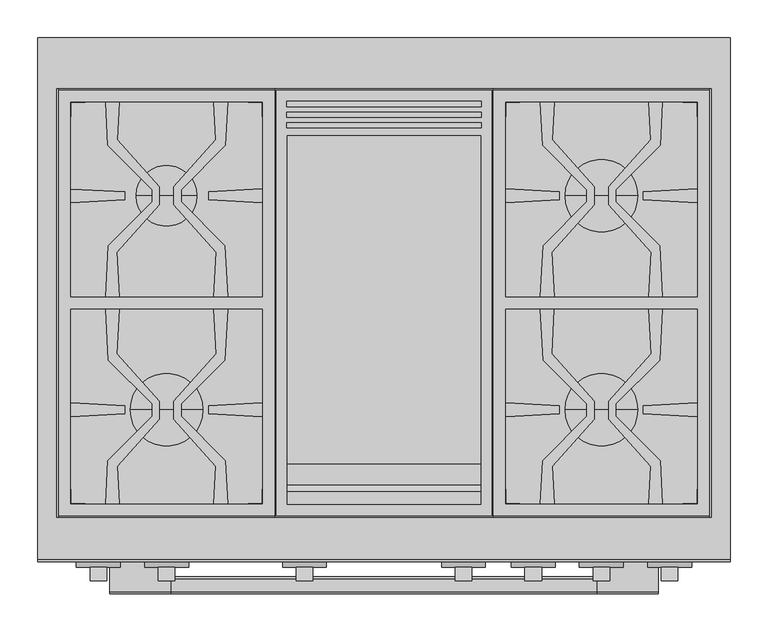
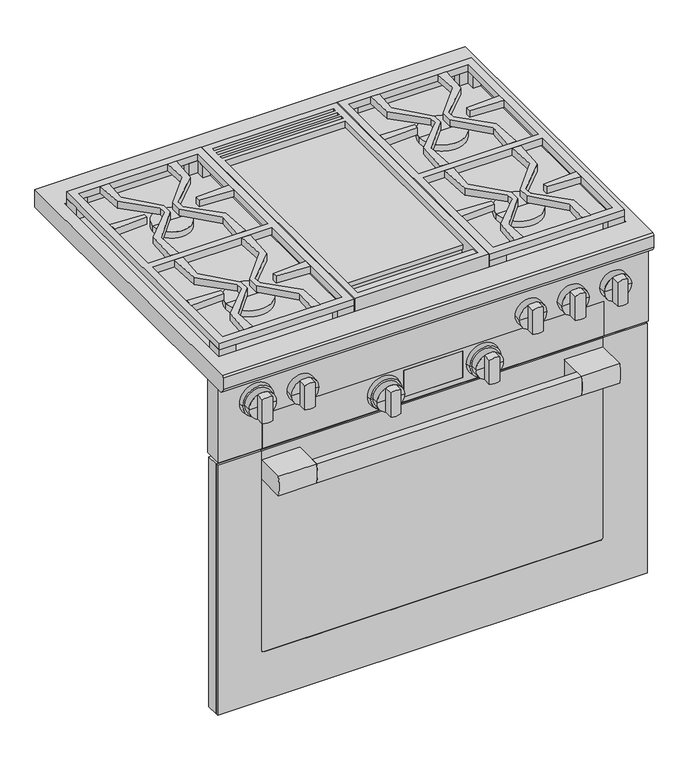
"""IFC4 building model written with IfcOpenShell, lengths in millimetres: proxy geometry, 11791500_USA_HR1136-3G_EDST-CLST : 25113681_USA_11791500_HR1136-3G_EDST-CLST."""

from ifc_helpers import new_model, si_unit, point, frame, frame_2d, origin, place, context, project, spatial, polyline, circle_curve, trimmed, segment, composite_curve, outline, extrude, faceted_brep, source, transform, mapped, element, save
from ifc_brep_helpers import plane_surface, cylinder_surface, revolved_surface, advanced_brep


def specialty_equipment_065de27d(model_context):
    return source(origin(), model_context, "Body", "SolidModel", [
        extrude(outline(composite_curve([segment(polyline([(-714.0, 624.0), (-731.0, 624.0)]), True, "CONTINUOUS"), segment(trimmed(circle_curve(frame_2d((-655.4583333, 645.5)), 78.5416667), [point((-731.0, 624.0))], [point((-731.0, 667.0))], False, "CARTESIAN"), True, "CONTINUOUS"), segment(polyline([(-731.0, 667.0), (-714.0, 667.0)]), True, "CONTINUOUS"), segment(trimmed(circle_curve(frame_2d((-789.5416667, 645.5)), 78.5416667), [point((-714.0, 667.0))], [point((-714.0, 624.0))], False, "CARTESIAN"), True, "CONTINUOUS")], self_intersect=False)), frame((-281.0, 0.0, 0.0), z_axis=(1.0, 0.0, 0.0), x_axis=(0.0, 1.0, 0.0)), (0.0, 0.0, 1.0), 562.0),
        extrude(outline(composite_curve([segment(polyline([(-731.0, 667.0), (-668.7, 667.0), (-668.7, 624.0), (-731.0, 624.0)]), True, "CONTINUOUS"), segment(trimmed(circle_curve(frame_2d((-655.4583333, 645.5)), 78.5416667), [point((-731.0, 624.0))], [point((-731.0, 667.0))], False, "CARTESIAN"), True, "CONTINUOUS")], self_intersect=False)), frame((281.0, 0.0, 0.0), z_axis=(1.0, 0.0, 0.0), x_axis=(0.0, 1.0, 0.0)), (0.0, 0.0, 1.0), 81.0),
        extrude(outline(composite_curve([segment(polyline([(-668.7, 667.0), (-668.7, 624.0), (-731.0, 624.0)]), True, "CONTINUOUS"), segment(trimmed(circle_curve(frame_2d((-655.4583333, 645.5)), 78.5416667), [point((-731.0, 624.0))], [point((-731.0, 667.0))], False, "CARTESIAN"), True, "CONTINUOUS"), segment(polyline([(-731.0, 667.0), (-668.7, 667.0)]), True, "CONTINUOUS")], self_intersect=False)), frame((-362.0, 0.0, 0.0), z_axis=(1.0, 0.0, 0.0), x_axis=(0.0, 1.0, 0.0)), (0.0, 0.0, 1.0), 81.0),
        extrude(outline(polyline([(-456.0, -638.0), (456.0, -638.0), (456.0, -664.7), (-456.0, -664.7), (-456.0, -638.0)])), frame((0.0, 0.0, 127.0), z_axis=(0.0, 0.0, 1.0), x_axis=(1.0, 0.0, 0.0)), (0.0, 0.0, 1.0), 561.0),
        extrude(outline(polyline([(-455.0, -664.7), (455.0, -664.7), (455.0, -668.7), (-455.0, -668.7), (-455.0, -664.7)])), frame((0.0, 0.0, 128.0), z_axis=(0.0, 0.0, 1.0), x_axis=(1.0, 0.0, 0.0)), (0.0, 0.0, 1.0), 559.0),
        advanced_brep(
        [(363.0, -664.7, 688.0), (456.0, -664.7, 688.0), (456.0, -664.7, 127.0), (-456.0, -664.7, 127.0), (-456.0, -664.7, 688.0), (-363.0, -664.7, 688.0), (-363.0, -664.7, 687.0), (-455.0, -664.7, 687.0), (-455.0, -664.7, 128.0), (455.0, -664.7, 128.0), (455.0, -664.7, 687.0), (363.0, -664.7, 687.0), (-363.0, -670.0, 688.0), (-456.0, -670.0, 688.0), (-456.0, -670.0, 127.0), (456.0, -670.0, 127.0), (456.0, -670.0, 688.0), (363.0, -670.0, 688.0), (363.0, -670.0, 241.0), (357.0, -670.0, 235.0), (-357.0, -670.0, 235.0), (-363.0, -670.0, 241.0), (-363.0, -668.7, 241.0), (-363.0, -668.7, 687.0), (357.0, -668.7, 235.0), (-357.0, -668.7, 235.0), (363.0, -668.7, 687.0), (363.0, -668.7, 241.0), (455.0, -668.7, 687.0), (455.0, -668.7, 128.0), (-455.0, -668.7, 128.0), (-455.0, -668.7, 687.0)],
        [
            (0, 1),
            (1, 2),
            (2, 3),
            (3, 4),
            (4, 5),
            (5, 6),
            (6, 7),
            (7, 8),
            (8, 9),
            (9, 10),
            (10, 11),
            (11, 0),
            (12, 13),
            (13, 14),
            (14, 15),
            (15, 16),
            (16, 17),
            (17, 18),
            (18, 19, circle_curve(frame((357.0, -670.0, 241.0), z_axis=(0.0, 1.0, 0.0), x_axis=(-1.0, 0.0, 0.0)), 6.0)),
            (19, 20),
            (20, 21, circle_curve(frame((-357.0, -670.0, 241.0), z_axis=(0.0, 1.0, 0.0), x_axis=(-1.0, 0.0, 0.0)), 6.0)),
            (21, 12),
            (21, 22),
            (22, 23),
            (23, 6),
            (5, 12),
            (19, 24),
            (24, 25),
            (25, 20),
            (17, 0),
            (11, 26),
            (26, 27),
            (27, 18),
            (16, 1),
            (15, 2),
            (14, 3),
            (13, 4),
            (25, 22, circle_curve(frame((-357.0, -668.7, 241.0), z_axis=(0.0, 1.0, 0.0), x_axis=(-1.0, 0.0, 0.0)), 6.0)),
            (27, 24, circle_curve(frame((357.0, -668.7, 241.0), z_axis=(0.0, 1.0, 0.0), x_axis=(-1.0, 0.0, 0.0)), 6.0)),
            (28, 29),
            (29, 30),
            (30, 31),
            (31, 23),
            (26, 28),
            (28, 10),
            (9, 29),
            (8, 30),
            (7, 31),
        ],
        [
            plane_surface(frame((-363.0, -664.7, 241.0), z_axis=(0.0, 1.0, 0.0), x_axis=(0.0, 0.0, -1.0))),
            plane_surface(frame((-363.0, -670.0, 241.0), z_axis=(0.0, -1.0, 0.0), x_axis=(0.0, 0.0, 1.0))),
            plane_surface(frame((-363.0, -664.7, 688.0), z_axis=(1.0, 0.0, 0.0), x_axis=(0.0, -1.0, 0.0))),
            plane_surface(frame((-357.0, -664.7, 235.0), z_axis=(0.0, 0.0, 1.0), x_axis=(0.0, -1.0, 0.0))),
            plane_surface(frame((363.0, -664.7, 241.0), z_axis=(-1.0, 0.0, 0.0), x_axis=(0.0, -1.0, 0.0))),
            plane_surface(frame((363.0, -664.7, 688.0), z_axis=(0.0, 0.0, 1.0), x_axis=(0.0, -1.0, 0.0))),
            plane_surface(frame((456.0, -664.7, 688.0), z_axis=(1.0, 0.0, 0.0), x_axis=(0.0, -1.0, 0.0))),
            plane_surface(frame((456.0, -664.7, 127.0), z_axis=(0.0, 0.0, -1.0), x_axis=(0.0, -1.0, 0.0))),
            plane_surface(frame((-456.0, -664.7, 127.0), z_axis=(-1.0, 0.0, 0.0), x_axis=(0.0, -1.0, 0.0))),
            plane_surface(frame((-456.0, -664.7, 688.0), z_axis=(0.0, 0.0, 1.0), x_axis=(0.0, -1.0, 0.0))),
            revolved_surface(polyline([(-363.0, -670.0, 241.0), (-363.0, -668.7, 241.0)]), (-357.0, -670.0, 241.0), (0.0, -1.0, 0.0)),
            revolved_surface(polyline([(351.0, -670.0, 241.0), (351.0, -668.7, 241.0)]), (357.0, -670.0, 241.0), (0.0, -1.0, 0.0)),
            plane_surface(frame((455.0, -668.7, 687.0), z_axis=(0.0, 1.0, 0.0), x_axis=(0.0, 0.0, 1.0))),
            plane_surface(frame((455.0, -664.7, 687.0), z_axis=(-1.0, 0.0, 0.0), x_axis=(0.0, -1.0, 0.0))),
            plane_surface(frame((455.0, -664.7, 128.0), z_axis=(0.0, 0.0, 1.0), x_axis=(0.0, -1.0, 0.0))),
            plane_surface(frame((-455.0, -664.7, 128.0), z_axis=(1.0, 0.0, 0.0), x_axis=(0.0, -1.0, 0.0))),
            plane_surface(frame((-455.0, -664.7, 687.0), z_axis=(0.0, 0.0, -1.0), x_axis=(0.0, -1.0, 0.0))),
        ],
        [
            (0, [[1, 2, 3, 4, 5, 6, 7, 8, 9, 10, 11, 12]]),
            (1, [[13, 14, 15, 16, 17, 18, 19, 20, 21, 22]]),
            (2, [[-22, 23, 24, 25, -6, 26]]),
            (3, [[-20, 27, 28, 29]]),
            (4, [[-18, 30, -12, 31, 32, 33]]),
            (5, [[-1, -30, -17, 34]]),
            (6, [[-2, -34, -16, 35]]),
            (7, [[-3, -35, -15, 36]]),
            (8, [[-4, -36, -14, 37]]),
            (9, [[-5, -37, -13, -26]]),
            (10, [[-21, -29, 38, -23]]),
            (11, [[-19, -33, 39, -27]]),
            (12, [[40, 41, 42, 43, -24, -38, -28, -39, -32, 44]]),
            (13, [[-40, 45, -10, 46]]),
            (14, [[-41, -46, -9, 47]]),
            (15, [[-42, -47, -8, 48]]),
            (16, [[-45, -44, -31, -11]]),
            (16, [[-48, -7, -25, -43]]),
        ],
    ),
        extrude(outline(polyline([(-427.0, -617.0), (427.0, -617.0), (427.0, -638.0), (-427.0, -638.0), (-427.0, -617.0)])), frame((0.0, 0.0, 133.0), z_axis=(0.0, 0.0, 1.0), x_axis=(1.0, 0.0, 0.0)), (0.0, 0.0, 1.0), 550.0),
        extrude(outline(polyline([(206.4177304, -358.0273828), (224.4174107, -358.0273828), (221.3474419, -416.9894265), (277.4590566, -479.568392), (277.4590566, -503.4471434), (221.8930533, -565.5024535), (224.5051055, -615.0212482), (206.5054252, -615.0212482), (209.4706458, -558.0710081), (267.8494553, -499.6921986), (267.8494553, -483.3657133), (209.9764383, -425.4926963), (206.4177304, -358.0273828)])), frame((0.0, 0.0, 914.0), z_axis=(0.0, 0.0, 1.0), x_axis=(1.0, 0.0, 0.0)), (0.0, 0.0, 1.0), 15.0),
        extrude(outline(polyline([(352.5666917, -416.9448139), (349.4588735, -358.0273828), (367.4534566, -358.0273828), (363.9434746, -425.4403498), (306.0712231, -483.3126013), (306.0712231, -499.6295194), (364.5438392, -558.1021355), (367.5462487, -615.0212482), (349.541471, -615.0212482), (352.1220648, -565.4581775), (296.4590702, -503.3795395), (296.4590702, -479.6049953), (352.5666917, -416.9448139)])), frame((0.0, 0.0, 914.0), z_axis=(0.0, 0.0, 1.0), x_axis=(1.0, 0.0, 0.0)), (0.0, 0.0, 1.0), 15.0),
        extrude(outline(polyline([(-367.5822696, -358.0273828), (-349.5825893, -358.0273828), (-352.6525581, -416.9894265), (-296.5409434, -479.568392), (-296.5409434, -503.4471434), (-352.1069467, -565.5024535), (-349.4948945, -615.0212482), (-367.4945748, -615.0212482), (-364.5293542, -558.0710081), (-306.1505447, -499.6921986), (-306.1505447, -483.3657133), (-364.0235617, -425.4926963), (-367.5822696, -358.0273828)])), frame((0.0, 0.0, 914.0), z_axis=(0.0, 0.0, 1.0), x_axis=(1.0, 0.0, 0.0)), (0.0, 0.0, 1.0), 15.0),
        extrude(outline(polyline([(-224.5411265, -358.0273828), (-206.5465434, -358.0273828), (-210.0565254, -425.4403498), (-267.9287769, -483.3126013), (-267.9287769, -499.6295194), (-209.4561608, -558.1021355), (-206.4537513, -615.0212482), (-224.458529, -615.0212482), (-221.8779352, -565.4581775), (-277.5409298, -503.3795395), (-277.5409298, -479.6049953), (-221.4333083, -416.9448139), (-224.5411265, -358.0273828)])), frame((0.0, 0.0, 914.0), z_axis=(0.0, 0.0, 1.0), x_axis=(1.0, 0.0, 0.0)), (0.0, 0.0, 1.0), 15.0),
        extrude(outline(polyline([(206.4614138, -85.0), (224.4614138, -85.0), (221.8661974, -134.5196799), (277.5, -196.6082182), (277.5, -220.3917818), (221.3710782, -283.0328838), (224.4614138, -342.0), (206.4614138, -342.0), (209.9971843, -274.5334805), (267.8891082, -216.6415566), (267.8891082, -200.3584434), (209.4441217, -141.9134569), (206.4614138, -85.0)])), frame((0.0, 0.0, 914.0), z_axis=(0.0, 0.0, 1.0), x_axis=(1.0, 0.0, 0.0)), (0.0, 0.0, 1.0), 15.0),
        extrude(outline(polyline([(349.5, -85.0), (367.5, -85.0), (364.5172921, -141.9134569), (306.1108918, -200.3198573), (306.1108918, -216.6801428), (363.9642295, -274.5334805), (367.5, -342.0), (349.5, -342.0), (352.5903356, -283.0328839), (296.5, -220.4348449), (296.5, -196.5651551), (352.0952165, -134.5196799), (349.5, -85.0)])), frame((0.0, 0.0, 914.0), z_axis=(0.0, 0.0, 1.0), x_axis=(1.0, 0.0, 0.0)), (0.0, 0.0, 1.0), 15.0),
        extrude(outline(polyline([(-367.5385862, -85.0), (-349.5385862, -85.0), (-352.1338026, -134.5196799), (-296.5, -196.6082182), (-296.5, -220.3917818), (-352.6289218, -283.0328838), (-349.5385862, -342.0), (-367.5385862, -342.0), (-364.0028157, -274.5334805), (-306.1108918, -216.6415566), (-306.1108918, -200.3584434), (-364.5558783, -141.9134569), (-367.5385862, -85.0)])), frame((0.0, 0.0, 914.0), z_axis=(0.0, 0.0, 1.0), x_axis=(1.0, 0.0, 0.0)), (0.0, 0.0, 1.0), 15.0),
        extrude(outline(polyline([(-224.5, -85.0), (-206.5, -85.0), (-209.4827079, -141.9134569), (-267.8891082, -200.3198573), (-267.8891082, -216.6801428), (-210.0357705, -274.5334805), (-206.5, -342.0), (-224.5, -342.0), (-221.4096644, -283.0328839), (-277.5, -220.4348449), (-277.5, -196.5651551), (-221.9047835, -134.5196799), (-224.5, -85.0)])), frame((0.0, 0.0, 914.0), z_axis=(0.0, 0.0, 1.0), x_axis=(1.0, 0.0, 0.0)), (0.0, 0.0, 1.0), 15.0),
        extrude(outline(polyline([(429.5, -67.0), (429.5, -633.0), (144.5, -633.0), (144.5, -67.0), (429.5, -67.0)])), frame((0.0, 0.0, 870.0), z_axis=(0.0, 0.0, 1.0), x_axis=(1.0, 0.0, 0.0)), (0.0, 0.0, 1.0), 17.0),
        extrude(outline(polyline([(-144.5, -67.0), (-144.5, -633.0), (-429.5, -633.0), (-429.5, -67.0), (-144.5, -67.0)])), frame((0.0, 0.0, 870.0), z_axis=(0.0, 0.0, 1.0), x_axis=(1.0, 0.0, 0.0)), (0.0, 0.0, 1.0), 17.0),
        extrude(outline(polyline([(-342.5, -213.7921261), (-413.5, -217.4578849), (-413.5, -199.5421151), (-342.5, -203.2078739), (-342.5, -213.7921261)])), frame((0.0, 0.0, 914.0), z_axis=(0.0, 0.0, 1.0), x_axis=(1.0, 0.0, 0.0)), (0.0, 0.0, 1.0), 15.0),
        extrude(outline(polyline([(-160.5, -199.5029948), (-160.5, -217.4970052), (-231.5, -213.7790477), (-231.5, -203.2209523), (-160.5, -199.5029948)])), frame((0.0, 0.0, 914.0), z_axis=(0.0, 0.0, 1.0), x_axis=(1.0, 0.0, 0.0)), (0.0, 0.0, 1.0), 15.0),
        extrude(outline(polyline([(-342.5, -496.2921261), (-413.5, -499.9578849), (-413.5, -482.0421151), (-342.5, -485.7078739), (-342.5, -496.2921261)])), frame((0.0, 0.0, 914.0), z_axis=(0.0, 0.0, 1.0), x_axis=(1.0, 0.0, 0.0)), (0.0, 0.0, 1.0), 15.0),
        extrude(outline(polyline([(-160.5, -482.0029948), (-160.5, -499.9970052), (-231.5, -496.2790477), (-231.5, -485.7209523), (-160.5, -482.0029948)])), frame((0.0, 0.0, 914.0), z_axis=(0.0, 0.0, 1.0), x_axis=(1.0, 0.0, 0.0)), (0.0, 0.0, 1.0), 15.0),
        extrude(outline(polyline([(-144.5, -631.0), (-179.5, -631.0), (-179.5, -615.0), (-160.5, -615.0), (-160.5, -596.0), (-144.5, -596.0), (-144.5, -631.0)])), frame((0.0, 0.0, 887.0), z_axis=(0.0, 0.0, 1.0), x_axis=(1.0, 0.0, 0.0)), (0.0, 0.0, 1.0), 27.0),
        extrude(outline(polyline([(-429.5, -631.0), (-429.5, -596.0), (-413.5, -596.0), (-413.5, -615.0), (-394.5, -615.0), (-394.5, -631.0), (-429.5, -631.0)])), frame((0.0, 0.0, 887.0), z_axis=(0.0, 0.0, 1.0), x_axis=(1.0, 0.0, 0.0)), (0.0, 0.0, 1.0), 27.0),
        extrude(outline(polyline([(-144.5, -69.0), (-144.5, -104.0), (-160.5, -104.0), (-160.5, -85.0), (-179.5, -85.0), (-179.5, -69.0), (-144.5, -69.0)])), frame((0.0, 0.0, 887.0), z_axis=(0.0, 0.0, 1.0), x_axis=(1.0, 0.0, 0.0)), (0.0, 0.0, 1.0), 27.0),
        extrude(outline(polyline([(-429.5, -69.0), (-394.5, -69.0), (-394.5, -85.0), (-413.5, -85.0), (-413.5, -104.0), (-429.5, -104.0), (-429.5, -69.0)])), frame((0.0, 0.0, 887.0), z_axis=(0.0, 0.0, 1.0), x_axis=(1.0, 0.0, 0.0)), (0.0, 0.0, 1.0), 27.0),
        extrude(outline(polyline([(160.5, -499.9810574), (160.5, -482.0189426), (231.5, -485.7078739), (231.5, -496.2921261), (160.5, -499.9810574)])), frame((0.0, 0.0, 914.0), z_axis=(0.0, 0.0, 1.0), x_axis=(1.0, 0.0, 0.0)), (0.0, 0.0, 1.0), 15.0),
        extrude(outline(polyline([(413.5, -482.0262039), (413.5, -499.9737961), (342.5, -496.2790477), (342.5, -485.7209523), (413.5, -482.0262039)])), frame((0.0, 0.0, 914.0), z_axis=(0.0, 0.0, 1.0), x_axis=(1.0, 0.0, 0.0)), (0.0, 0.0, 1.0), 15.0),
        extrude(outline(polyline([(160.5, -217.4810574), (160.5, -199.5189426), (231.5, -203.2078739), (231.5, -213.7921261), (160.5, -217.4810574)])), frame((0.0, 0.0, 914.0), z_axis=(0.0, 0.0, 1.0), x_axis=(1.0, 0.0, 0.0)), (0.0, 0.0, 1.0), 15.0),
        extrude(outline(polyline([(413.5, -199.5262039), (413.5, -217.4737961), (342.5, -213.7790477), (342.5, -203.2209523), (413.5, -199.5262039)])), frame((0.0, 0.0, 914.0), z_axis=(0.0, 0.0, 1.0), x_axis=(1.0, 0.0, 0.0)), (0.0, 0.0, 1.0), 15.0),
        advanced_brep(
        [(239.0, -208.5, 887.0), (335.0, -208.5, 887.0), (335.0, -208.5, 901.0), (239.0, -208.5, 901.0), (287.0, -208.5, 887.0), (287.0, -208.5, 901.0)],
        [
            (0, 1, circle_curve(frame((287.0, -208.5, 887.0), z_axis=(0.0, 0.0, 1.0), x_axis=(1.0, 0.0, 0.0)), 48.0)),
            (1, 2),
            (2, 3, circle_curve(frame((287.0, -208.5, 901.0), z_axis=(0.0, 0.0, -1.0), x_axis=(1.0, 0.0, 0.0)), 48.0)),
            (3, 0),
            (1, 0, circle_curve(frame((287.0, -208.5, 887.0), z_axis=(0.0, 0.0, 1.0), x_axis=(1.0, 0.0, 0.0)), 48.0)),
            (3, 2, circle_curve(frame((287.0, -208.5, 901.0), z_axis=(0.0, 0.0, -1.0), x_axis=(1.0, 0.0, 0.0)), 48.0)),
            (4, 1),
            (0, 4),
            (2, 5),
            (5, 3),
        ],
        [
            cylinder_surface(frame((287.0, -208.5, 2424.4), z_axis=(0.0, 0.0, -1.0), x_axis=(1.0, 0.0, 0.0)), 48.0),
            plane_surface(frame((287.0, -208.5, 887.0), z_axis=(0.0, 0.0, -1.0), x_axis=(1.0, 0.0, 0.0))),
            plane_surface(frame((287.0, -208.5, 901.0), z_axis=(0.0, 0.0, 1.0), x_axis=(1.0, 0.0, 0.0))),
        ],
        [
            (0, [[1, 2, 3, 4]]),
            (0, [[5, -4, 6, -2]]),
            (1, [[7, -1, 8]]),
            (1, [[-8, -5, -7]]),
            (2, [[-3, 9, 10]]),
            (2, [[-6, -10, -9]]),
        ],
    ),
        extrude(outline(polyline([(-144.5, -69.0), (-144.5, -631.0), (-429.5, -631.0), (-429.5, -69.0), (-144.5, -69.0)]), holes=[polyline([(-160.5, -85.0), (-413.5, -85.0), (-413.5, -342.0), (-160.5, -342.0), (-160.5, -85.0)]), polyline([(-413.5, -358.0), (-413.5, -615.0), (-160.5, -615.0), (-160.5, -358.0), (-413.5, -358.0)])]), frame((0.0, 0.0, 914.0), z_axis=(0.0, 0.0, 1.0), x_axis=(1.0, 0.0, 0.0)), (0.0, 0.0, 1.0), 15.0),
        extrude(outline(polyline([(429.5, -69.0), (429.5, -631.0), (144.5, -631.0), (144.5, -69.0), (429.5, -69.0)]), holes=[polyline([(413.5, -85.0), (160.5, -85.0), (160.5, -342.0), (413.5, -342.0), (413.5, -85.0)]), polyline([(160.5, -358.0), (160.5, -615.0), (413.5, -615.0), (413.5, -358.0), (160.5, -358.0)])]), frame((0.0, 0.0, 914.0), z_axis=(0.0, 0.0, 1.0), x_axis=(1.0, 0.0, 0.0)), (0.0, 0.0, 1.0), 15.0),
        advanced_brep(
        [(239.0, -491.0, 887.0), (335.0, -491.0, 887.0), (335.0, -491.0, 901.0), (239.0, -491.0, 901.0), (287.0, -491.0, 887.0), (287.0, -491.0, 901.0)],
        [
            (0, 1, circle_curve(frame((287.0, -491.0, 887.0), z_axis=(0.0, 0.0, 1.0), x_axis=(1.0, 0.0, 0.0)), 48.0)),
            (1, 2),
            (2, 3, circle_curve(frame((287.0, -491.0, 901.0), z_axis=(0.0, 0.0, -1.0), x_axis=(1.0, 0.0, 0.0)), 48.0)),
            (3, 0),
            (1, 0, circle_curve(frame((287.0, -491.0, 887.0), z_axis=(0.0, 0.0, 1.0), x_axis=(1.0, 0.0, 0.0)), 48.0)),
            (3, 2, circle_curve(frame((287.0, -491.0, 901.0), z_axis=(0.0, 0.0, -1.0), x_axis=(1.0, 0.0, 0.0)), 48.0)),
            (4, 1),
            (0, 4),
            (2, 5),
            (5, 3),
        ],
        [
            cylinder_surface(frame((287.0, -491.0, 2424.4), z_axis=(0.0, 0.0, -1.0), x_axis=(1.0, 0.0, 0.0)), 48.0),
            plane_surface(frame((287.0, -491.0, 887.0), z_axis=(0.0, 0.0, -1.0), x_axis=(1.0, 0.0, 0.0))),
            plane_surface(frame((287.0, -491.0, 901.0), z_axis=(0.0, 0.0, 1.0), x_axis=(1.0, 0.0, 0.0))),
        ],
        [
            (0, [[1, 2, 3, 4]]),
            (0, [[5, -4, 6, -2]]),
            (1, [[7, -1, 8]]),
            (1, [[-8, -5, -7]]),
            (2, [[-3, 9, 10]]),
            (2, [[-6, -10, -9]]),
        ],
    ),
        extrude(outline(polyline([(429.5, -631.0), (394.5, -631.0), (394.5, -615.0), (413.5, -615.0), (413.5, -596.0), (429.5, -596.0), (429.5, -631.0)])), frame((0.0, 0.0, 887.0), z_axis=(0.0, 0.0, 1.0), x_axis=(1.0, 0.0, 0.0)), (0.0, 0.0, 1.0), 27.0),
        extrude(outline(polyline([(144.5, -631.0), (144.5, -596.0), (160.5125078, -596.0), (160.5125078, -615.0), (179.5, -615.0), (179.5, -631.0), (144.5, -631.0)])), frame((0.0, 0.0, 887.0), z_axis=(0.0, 0.0, 1.0), x_axis=(1.0, 0.0, 0.0)), (0.0, 0.0, 1.0), 27.0),
        extrude(outline(polyline([(429.5, -69.0), (429.5, -104.0), (413.4874922, -104.0), (413.4874922, -85.0), (394.5, -85.0), (394.5, -69.0), (429.5, -69.0)])), frame((0.0, 0.0, 887.0), z_axis=(0.0, 0.0, 1.0), x_axis=(1.0, 0.0, 0.0)), (0.0, 0.0, 1.0), 27.0),
        extrude(outline(polyline([(144.5, -69.0), (179.5, -69.0), (179.5, -85.0), (160.5125078, -85.0), (160.5125078, -104.0), (144.5, -104.0), (144.5, -69.0)])), frame((0.0, 0.0, 887.0), z_axis=(0.0, 0.0, 1.0), x_axis=(1.0, 0.0, 0.0)), (0.0, 0.0, 1.0), 27.0),
        advanced_brep(
        [(-287.0, -208.5, 887.0), (-247.0, -208.5, 887.0), (-327.0, -208.5, 887.0), (-327.0, -208.5, 901.0), (-247.0, -208.5, 901.0), (-287.0, -208.5, 901.0)],
        [
            (0, 1),
            (1, 2, circle_curve(frame((-287.0, -208.5, 887.0), z_axis=(0.0, 0.0, -1.0), x_axis=(1.0, 0.0, 0.0)), 40.0)),
            (2, 0),
            (2, 1, circle_curve(frame((-287.0, -208.5, 887.0), z_axis=(0.0, 0.0, -1.0), x_axis=(1.0, 0.0, 0.0)), 40.0)),
            (3, 4, circle_curve(frame((-287.0, -208.5, 901.0), z_axis=(0.0, 0.0, 1.0), x_axis=(1.0, 0.0, 0.0)), 40.0)),
            (4, 5),
            (5, 3),
            (4, 3, circle_curve(frame((-287.0, -208.5, 901.0), z_axis=(0.0, 0.0, 1.0), x_axis=(1.0, 0.0, 0.0)), 40.0)),
            (1, 4),
            (3, 2),
        ],
        [
            plane_surface(frame((-287.0, -208.5, 887.0), z_axis=(0.0, 0.0, -1.0), x_axis=(1.0, 0.0, 0.0))),
            plane_surface(frame((-287.0, -208.5, 901.0), z_axis=(0.0, 0.0, 1.0), x_axis=(1.0, 0.0, 0.0))),
            cylinder_surface(frame((-287.0, -208.5, 2424.4), z_axis=(0.0, 0.0, -1.0), x_axis=(1.0, 0.0, 0.0)), 40.0),
        ],
        [
            (0, [[1, 2, 3]]),
            (0, [[-3, 4, -1]]),
            (1, [[5, 6, 7]]),
            (1, [[8, -7, -6]]),
            (2, [[-2, 9, -5, 10]]),
            (2, [[-4, -10, -8, -9]]),
        ],
    ),
        advanced_brep(
        [(-335.0, -491.0, 887.0), (-239.0, -491.0, 887.0), (-239.0, -491.0, 901.0), (-335.0, -491.0, 901.0), (-287.0, -491.0, 887.0), (-287.0, -491.0, 901.0)],
        [
            (0, 1, circle_curve(frame((-287.0, -491.0, 887.0), z_axis=(0.0, 0.0, 1.0), x_axis=(1.0, 0.0, 0.0)), 48.0)),
            (1, 2),
            (2, 3, circle_curve(frame((-287.0, -491.0, 901.0), z_axis=(0.0, 0.0, -1.0), x_axis=(1.0, 0.0, 0.0)), 48.0)),
            (3, 0),
            (1, 0, circle_curve(frame((-287.0, -491.0, 887.0), z_axis=(0.0, 0.0, 1.0), x_axis=(1.0, 0.0, 0.0)), 48.0)),
            (3, 2, circle_curve(frame((-287.0, -491.0, 901.0), z_axis=(0.0, 0.0, -1.0), x_axis=(1.0, 0.0, 0.0)), 48.0)),
            (4, 1),
            (0, 4),
            (2, 5),
            (5, 3),
        ],
        [
            cylinder_surface(frame((-287.0, -491.0, 2424.4), z_axis=(0.0, 0.0, -1.0), x_axis=(1.0, 0.0, 0.0)), 48.0),
            plane_surface(frame((-287.0, -491.0, 887.0), z_axis=(0.0, 0.0, -1.0), x_axis=(1.0, 0.0, 0.0))),
            plane_surface(frame((-287.0, -491.0, 901.0), z_axis=(0.0, 0.0, 1.0), x_axis=(1.0, 0.0, 0.0))),
        ],
        [
            (0, [[1, 2, 3, 4]]),
            (0, [[5, -4, 6, -2]]),
            (1, [[7, -1, 8]]),
            (1, [[-8, -5, -7]]),
            (2, [[-3, 9, 10]]),
            (2, [[-6, -10, -9]]),
        ],
    ),
        advanced_brep(
        [(457.0, 0.0, 902.0), (457.0, -688.3499547, 902.0), (457.0, -692.0, 898.3499547), (457.0, -692.0, 872.0), (457.0, -682.0, 862.0), (457.0, 0.0, 862.0), (-457.0, 0.0, 902.0), (-457.0, 0.0, 862.0), (-457.0, -682.0, 862.0), (-457.0, -692.0, 872.0), (-457.0, -692.0, 898.3499547), (-457.0, -688.3499547, 902.0), (-432.0, -67.0, 902.0), (432.0, -67.0, 902.0), (432.0, -633.0, 902.0), (-432.0, -633.0, 902.0), (432.0, -67.0, 870.0), (-432.0, -67.0, 870.0), (-432.0, -633.0, 870.0), (432.0, -633.0, 870.0)],
        [
            (0, 1),
            (1, 2, circle_curve(frame((457.0, -688.0, 898.0), z_axis=(1.0, 0.0, 0.0), x_axis=(0.0, 0.0, 1.0)), 4.0152794)),
            (2, 3),
            (3, 4, circle_curve(frame((457.0, -682.0, 872.0), z_axis=(1.0, 0.0, 0.0), x_axis=(0.0, 0.0, 1.0)), 10.0)),
            (4, 5),
            (5, 0),
            (6, 7),
            (7, 8),
            (8, 9, circle_curve(frame((-457.0, -682.0, 872.0), z_axis=(-1.0, 0.0, 0.0), x_axis=(0.0, 0.0, 1.0)), 10.0)),
            (9, 10),
            (10, 11, circle_curve(frame((-457.0, -688.0, 898.0), z_axis=(-1.0, 0.0, 0.0), x_axis=(0.0, 0.0, 1.0)), 4.0152794)),
            (11, 6),
            (0, 6),
            (11, 1),
            (12, 13),
            (13, 14),
            (14, 15),
            (15, 12),
            (10, 2),
            (9, 3),
            (8, 4),
            (7, 5),
            (16, 17),
            (17, 18),
            (18, 19),
            (19, 16),
            (16, 13),
            (12, 17),
            (15, 18),
            (14, 19),
        ],
        [
            plane_surface(frame((457.0, -688.3499547, 902.0), z_axis=(1.0, 0.0, 0.0), x_axis=(0.0, -1.0, 0.0))),
            plane_surface(frame((-457.0, -688.3499547, 902.0), z_axis=(-1.0, 0.0, 0.0), x_axis=(0.0, 1.0, 0.0))),
            plane_surface(frame((457.0, 0.0, 902.0), z_axis=(0.0, 0.0, 1.0), x_axis=(-1.0, 0.0, 0.0))),
            cylinder_surface(frame((-457.0, -688.0, 898.0), z_axis=(1.0, 0.0, 0.0), x_axis=(0.0, 0.0, 1.0)), 4.0152794),
            plane_surface(frame((457.0, -692.0, 898.3499547), z_axis=(0.0, -1.0, 0.0), x_axis=(-1.0, 0.0, 0.0))),
            cylinder_surface(frame((-457.0, -682.0, 872.0), z_axis=(1.0, 0.0, 0.0), x_axis=(0.0, 0.0, 1.0)), 10.0),
            plane_surface(frame((457.0, -682.0, 862.0), z_axis=(0.0, 0.0, -1.0), x_axis=(-1.0, 0.0, 0.0))),
            plane_surface(frame((457.0, 0.0, 862.0), z_axis=(0.0, 1.0, 0.0), x_axis=(-1.0, 0.0, 0.0))),
            plane_surface(frame((-432.0, -67.0, 870.0), z_axis=(0.0, 0.0, 1.0), x_axis=(1.0, 0.0, 0.0))),
            plane_surface(frame((432.0, -67.0, 902.0), z_axis=(0.0, -1.0, 0.0), x_axis=(0.0, 0.0, -1.0))),
            plane_surface(frame((-432.0, -67.0, 902.0), z_axis=(1.0, 0.0, 0.0), x_axis=(0.0, 0.0, -1.0))),
            plane_surface(frame((-432.0, -633.0, 902.0), z_axis=(0.0, 1.0, 0.0), x_axis=(0.0, 0.0, -1.0))),
            plane_surface(frame((432.0, -633.0, 902.0), z_axis=(-1.0, 0.0, 0.0), x_axis=(0.0, 0.0, -1.0))),
        ],
        [
            (0, [[1, 2, 3, 4, 5, 6]]),
            (1, [[7, 8, 9, 10, 11, 12]]),
            (2, [[-1, 13, -12, 14], [15, 16, 17, 18]]),
            (3, [[-2, -14, -11, 19]]),
            (4, [[-3, -19, -10, 20]]),
            (5, [[-4, -20, -9, 21]]),
            (6, [[-5, -21, -8, 22]]),
            (7, [[-6, -22, -7, -13]]),
            (8, [[23, 24, 25, 26]]),
            (9, [[-23, 27, -15, 28]]),
            (10, [[-24, -28, -18, 29]]),
            (11, [[-25, -29, -17, 30]]),
            (12, [[-26, -30, -16, -27]]),
        ],
    ),
        extrude(outline(polyline([(-599.0, 926.0), (-599.0, 916.0), (-602.0, 916.0), (-590.3423085, 891.0), (-558.0, 891.0), (-558.0, 904.0), (-562.0, 904.0), (-562.0, 914.0), (-129.0, 914.0), (-129.0, 904.0), (-557.0, 904.0), (-557.0, 890.0), (-590.9793788, 890.0), (-603.1033779, 916.0), (-616.0, 916.0), (-616.0, 926.0), (-599.0, 926.0)])), frame((-127.5, 0.0, 0.0), z_axis=(1.0, 0.0, 0.0), x_axis=(0.0, 1.0, 0.0)), (0.0, 0.0, 1.0), 255.0),
        extrude(outline(polyline([(142.5, -69.0), (142.5, -631.0), (-142.5, -631.0), (-142.5, -69.0), (142.5, -69.0)]), holes=[polyline([(127.5, -129.0), (-127.5, -129.0), (-127.5, -616.0), (127.5, -616.0), (127.5, -129.0)]), polyline([(-128.5, -84.0), (-128.5, -91.0), (128.5, -91.0), (128.5, -84.0), (-128.5, -84.0)]), polyline([(-128.5, -98.0), (-128.5, -105.0), (128.5, -105.0), (128.5, -98.0), (-128.5, -98.0)]), polyline([(-128.5, -112.0), (-128.5, -119.0), (128.5, -119.0), (128.5, -112.0), (-128.5, -112.0)])]), frame((0.0, 0.0, 891.0), z_axis=(0.0, 0.0, 1.0), x_axis=(1.0, 0.0, 0.0)), (0.0, 0.0, 1.0), 38.0),
        extrude(outline(composite_curve([segment(polyline([(759.8328157, 94.0), (706.1671843, 94.0)]), True, "CONTINUOUS"), segment(trimmed(circle_curve(frame_2d((733.0, 105.0)), 29.0), [point((706.1671843, 94.0))], [point((706.1671843, 116.0))], False, "CARTESIAN"), True, "CONTINUOUS"), segment(polyline([(706.1671843, 116.0), (759.8328157, 116.0)]), True, "CONTINUOUS"), segment(trimmed(circle_curve(frame_2d((733.0, 105.0)), 29.0), [point((759.8328157, 116.0))], [point((759.8328157, 94.0))], False, "CARTESIAN"), True, "CONTINUOUS")], self_intersect=False)), frame((0.0, -717.0, 0.0), z_axis=(0.0, 1.0, 0.0), x_axis=(0.0, 0.0, 1.0)), (0.0, 0.0, 1.0), 18.0),
        extrude(outline(composite_curve([segment(polyline([(759.8328157, -116.0), (706.1671843, -116.0)]), True, "CONTINUOUS"), segment(trimmed(circle_curve(frame_2d((733.0, -105.0)), 29.0), [point((706.1671843, -116.0))], [point((706.1671843, -94.0))], False, "CARTESIAN"), True, "CONTINUOUS"), segment(polyline([(706.1671843, -94.0), (759.8328157, -94.0)]), True, "CONTINUOUS"), segment(trimmed(circle_curve(frame_2d((733.0, -105.0)), 29.0), [point((759.8328157, -94.0))], [point((759.8328157, -116.0))], False, "CARTESIAN"), True, "CONTINUOUS")], self_intersect=False)), frame((0.0, -717.0, 0.0), z_axis=(0.0, 1.0, 0.0), x_axis=(0.0, 0.0, 1.0)), (0.0, 0.0, 1.0), 18.0),
        advanced_brep(
        [(-105.0, -683.0, 733.0), (-76.0, -683.0, 733.0), (-134.0, -683.0, 733.0), (-134.0, -699.0, 733.0), (-76.0, -699.0, 733.0), (-105.0, -699.0, 733.0)],
        [
            (0, 1),
            (1, 2, circle_curve(frame((-105.0, -683.0, 733.0), z_axis=(0.0, 1.0, 0.0), x_axis=(1.0, 0.0, 0.0)), 29.0)),
            (2, 0),
            (2, 1, circle_curve(frame((-105.0, -683.0, 733.0), z_axis=(0.0, 1.0, 0.0), x_axis=(1.0, 0.0, 0.0)), 29.0)),
            (3, 4, circle_curve(frame((-105.0, -699.0, 733.0), z_axis=(0.0, -1.0, 0.0), x_axis=(1.0, 0.0, 0.0)), 29.0)),
            (4, 5),
            (5, 3),
            (4, 3, circle_curve(frame((-105.0, -699.0, 733.0), z_axis=(0.0, -1.0, 0.0), x_axis=(1.0, 0.0, 0.0)), 29.0)),
            (1, 4),
            (3, 2),
        ],
        [
            plane_surface(frame((-105.0, -683.0, 733.0), z_axis=(0.0, 1.0, 0.0), x_axis=(1.0, 0.0, 0.0))),
            plane_surface(frame((-105.0, -699.0, 733.0), z_axis=(0.0, -1.0, 0.0), x_axis=(1.0, 0.0, 0.0))),
            cylinder_surface(frame((-105.0, 751.3738435, 733.0), z_axis=(0.0, 1.0, 0.0), x_axis=(1.0, 0.0, 0.0)), 29.0),
        ],
        [
            (0, [[1, 2, 3]]),
            (0, [[-3, 4, -1]]),
            (1, [[5, 6, 7]]),
            (1, [[8, -7, -6]]),
            (2, [[-2, 9, -5, 10]]),
            (2, [[-4, -10, -8, -9]]),
        ],
    ),
        advanced_brep(
        [(105.0, -683.0, 733.0), (134.0, -683.0, 733.0), (76.0, -683.0, 733.0), (76.0, -699.0, 733.0), (134.0, -699.0, 733.0), (105.0, -699.0, 733.0)],
        [
            (0, 1),
            (1, 2, circle_curve(frame((105.0, -683.0, 733.0), z_axis=(0.0, 1.0, 0.0), x_axis=(1.0, 0.0, 0.0)), 29.0)),
            (2, 0),
            (2, 1, circle_curve(frame((105.0, -683.0, 733.0), z_axis=(0.0, 1.0, 0.0), x_axis=(1.0, 0.0, 0.0)), 29.0)),
            (3, 4, circle_curve(frame((105.0, -699.0, 733.0), z_axis=(0.0, -1.0, 0.0), x_axis=(1.0, 0.0, 0.0)), 29.0)),
            (4, 5),
            (5, 3),
            (4, 3, circle_curve(frame((105.0, -699.0, 733.0), z_axis=(0.0, -1.0, 0.0), x_axis=(1.0, 0.0, 0.0)), 29.0)),
            (1, 4),
            (3, 2),
        ],
        [
            plane_surface(frame((105.0, -683.0, 733.0), z_axis=(0.0, 1.0, 0.0), x_axis=(1.0, 0.0, 0.0))),
            plane_surface(frame((105.0, -699.0, 733.0), z_axis=(0.0, -1.0, 0.0), x_axis=(1.0, 0.0, 0.0))),
            cylinder_surface(frame((105.0, 751.3738435, 733.0), z_axis=(0.0, 1.0, 0.0), x_axis=(1.0, 0.0, 0.0)), 29.0),
        ],
        [
            (0, [[1, 2, 3]]),
            (0, [[-3, 4, -1]]),
            (1, [[5, 6, 7]]),
            (1, [[8, -7, -6]]),
            (2, [[-2, 9, -5, 10]]),
            (2, [[-4, -10, -8, -9]]),
        ],
    ),
        extrude(outline(composite_curve([segment(polyline([(839.8328157, -388.0), (786.1671843, -388.0)]), True, "CONTINUOUS"), segment(trimmed(circle_curve(frame_2d((813.0, -377.0)), 29.0), [point((786.1671843, -388.0))], [point((786.1671843, -366.0))], False, "CARTESIAN"), True, "CONTINUOUS"), segment(polyline([(786.1671843, -366.0), (839.8328157, -366.0)]), True, "CONTINUOUS"), segment(trimmed(circle_curve(frame_2d((813.0, -377.0)), 29.0), [point((839.8328157, -366.0))], [point((839.8328157, -388.0))], False, "CARTESIAN"), True, "CONTINUOUS")], self_intersect=False)), frame((0.0, -717.0, 0.0), z_axis=(0.0, 1.0, 0.0), x_axis=(0.0, 0.0, 1.0)), (0.0, 0.0, 1.0), 18.0),
        extrude(outline(composite_curve([segment(polyline([(839.8328157, -298.0), (786.1671843, -298.0)]), True, "CONTINUOUS"), segment(trimmed(circle_curve(frame_2d((813.0, -287.0)), 29.0), [point((786.1671843, -298.0))], [point((786.1671843, -276.0))], False, "CARTESIAN"), True, "CONTINUOUS"), segment(polyline([(786.1671843, -276.0), (839.8328157, -276.0)]), True, "CONTINUOUS"), segment(trimmed(circle_curve(frame_2d((813.0, -287.0)), 29.0), [point((839.8328157, -276.0))], [point((839.8328157, -298.0))], False, "CARTESIAN"), True, "CONTINUOUS")], self_intersect=False)), frame((0.0, -717.0, 0.0), z_axis=(0.0, 1.0, 0.0), x_axis=(0.0, 0.0, 1.0)), (0.0, 0.0, 1.0), 18.0),
        extrude(outline(composite_curve([segment(polyline([(839.8328157, 186.0), (786.1671843, 186.0)]), True, "CONTINUOUS"), segment(trimmed(circle_curve(frame_2d((813.0, 197.0)), 29.0), [point((786.1671843, 186.0))], [point((786.1671843, 208.0))], False, "CARTESIAN"), True, "CONTINUOUS"), segment(polyline([(786.1671843, 208.0), (839.8328157, 208.0)]), True, "CONTINUOUS"), segment(trimmed(circle_curve(frame_2d((813.0, 197.0)), 29.0), [point((839.8328157, 208.0))], [point((839.8328157, 186.0))], False, "CARTESIAN"), True, "CONTINUOUS")], self_intersect=False)), frame((0.0, -717.0, 0.0), z_axis=(0.0, 1.0, 0.0), x_axis=(0.0, 0.0, 1.0)), (0.0, 0.0, 1.0), 18.0),
        extrude(outline(composite_curve([segment(trimmed(circle_curve(frame_2d((813.0, 287.0)), 29.0), [point((786.1671843, 276.0))], [point((786.1671843, 298.0))], False, "CARTESIAN"), True, "CONTINUOUS"), segment(polyline([(786.1671843, 298.0), (839.8328157, 298.0)]), True, "CONTINUOUS"), segment(trimmed(circle_curve(frame_2d((813.0, 287.0)), 29.0), [point((839.8328157, 298.0))], [point((839.8328157, 276.0))], False, "CARTESIAN"), True, "CONTINUOUS"), segment(polyline([(839.8328157, 276.0), (786.1671843, 276.0)]), True, "CONTINUOUS")], self_intersect=False)), frame((0.0, -717.0, 0.0), z_axis=(0.0, 1.0, 0.0), x_axis=(0.0, 0.0, 1.0)), (0.0, 0.0, 1.0), 18.0),
        advanced_brep(
        [(-377.0, -683.0, 813.0), (-348.0, -683.0, 813.0), (-406.0, -683.0, 813.0), (-406.0, -699.0, 813.0), (-348.0, -699.0, 813.0), (-377.0, -699.0, 813.0)],
        [
            (0, 1),
            (1, 2, circle_curve(frame((-377.0, -683.0, 813.0), z_axis=(0.0, 1.0, 0.0), x_axis=(1.0, 0.0, 0.0)), 29.0)),
            (2, 0),
            (2, 1, circle_curve(frame((-377.0, -683.0, 813.0), z_axis=(0.0, 1.0, 0.0), x_axis=(1.0, 0.0, 0.0)), 29.0)),
            (3, 4, circle_curve(frame((-377.0, -699.0, 813.0), z_axis=(0.0, -1.0, 0.0), x_axis=(1.0, 0.0, 0.0)), 29.0)),
            (4, 5),
            (5, 3),
            (4, 3, circle_curve(frame((-377.0, -699.0, 813.0), z_axis=(0.0, -1.0, 0.0), x_axis=(1.0, 0.0, 0.0)), 29.0)),
            (1, 4),
            (3, 2),
        ],
        [
            plane_surface(frame((-377.0, -683.0, 813.0), z_axis=(0.0, 1.0, 0.0), x_axis=(1.0, 0.0, 0.0))),
            plane_surface(frame((-377.0, -699.0, 813.0), z_axis=(0.0, -1.0, 0.0), x_axis=(1.0, 0.0, 0.0))),
            cylinder_surface(frame((-377.0, 751.3738435, 813.0), z_axis=(0.0, 1.0, 0.0), x_axis=(1.0, 0.0, 0.0)), 29.0),
        ],
        [
            (0, [[1, 2, 3]]),
            (0, [[-3, 4, -1]]),
            (1, [[5, 6, 7]]),
            (1, [[8, -7, -6]]),
            (2, [[-2, 9, -5, 10]]),
            (2, [[-4, -10, -8, -9]]),
        ],
    ),
        advanced_brep(
        [(-287.0, -683.0, 813.0), (-258.0, -683.0, 813.0), (-316.0, -683.0, 813.0), (-316.0, -699.0, 813.0), (-258.0, -699.0, 813.0), (-287.0, -699.0, 813.0)],
        [
            (0, 1),
            (1, 2, circle_curve(frame((-287.0, -683.0, 813.0), z_axis=(0.0, 1.0, 0.0), x_axis=(1.0, 0.0, 0.0)), 29.0)),
            (2, 0),
            (2, 1, circle_curve(frame((-287.0, -683.0, 813.0), z_axis=(0.0, 1.0, 0.0), x_axis=(1.0, 0.0, 0.0)), 29.0)),
            (3, 4, circle_curve(frame((-287.0, -699.0, 813.0), z_axis=(0.0, -1.0, 0.0), x_axis=(1.0, 0.0, 0.0)), 29.0)),
            (4, 5),
            (5, 3),
            (4, 3, circle_curve(frame((-287.0, -699.0, 813.0), z_axis=(0.0, -1.0, 0.0), x_axis=(1.0, 0.0, 0.0)), 29.0)),
            (1, 4),
            (3, 2),
        ],
        [
            plane_surface(frame((-287.0, -683.0, 813.0), z_axis=(0.0, 1.0, 0.0), x_axis=(1.0, 0.0, 0.0))),
            plane_surface(frame((-287.0, -699.0, 813.0), z_axis=(0.0, -1.0, 0.0), x_axis=(1.0, 0.0, 0.0))),
            cylinder_surface(frame((-287.0, 751.3738435, 813.0), z_axis=(0.0, 1.0, 0.0), x_axis=(1.0, 0.0, 0.0)), 29.0),
        ],
        [
            (0, [[1, 2, 3]]),
            (0, [[-3, 4, -1]]),
            (1, [[5, 6, 7]]),
            (1, [[8, -7, -6]]),
            (2, [[-2, 9, -5, 10]]),
            (2, [[-4, -10, -8, -9]]),
        ],
    ),
        advanced_brep(
        [(197.0, -683.0, 813.0), (226.0, -683.0, 813.0), (168.0, -683.0, 813.0), (168.0, -699.0, 813.0), (226.0, -699.0, 813.0), (197.0, -699.0, 813.0)],
        [
            (0, 1),
            (1, 2, circle_curve(frame((197.0, -683.0, 813.0), z_axis=(0.0, 1.0, 0.0), x_axis=(1.0, 0.0, 0.0)), 29.0)),
            (2, 0),
            (2, 1, circle_curve(frame((197.0, -683.0, 813.0), z_axis=(0.0, 1.0, 0.0), x_axis=(1.0, 0.0, 0.0)), 29.0)),
            (3, 4, circle_curve(frame((197.0, -699.0, 813.0), z_axis=(0.0, -1.0, 0.0), x_axis=(1.0, 0.0, 0.0)), 29.0)),
            (4, 5),
            (5, 3),
            (4, 3, circle_curve(frame((197.0, -699.0, 813.0), z_axis=(0.0, -1.0, 0.0), x_axis=(1.0, 0.0, 0.0)), 29.0)),
            (1, 4),
            (3, 2),
        ],
        [
            plane_surface(frame((197.0, -683.0, 813.0), z_axis=(0.0, 1.0, 0.0), x_axis=(1.0, 0.0, 0.0))),
            plane_surface(frame((197.0, -699.0, 813.0), z_axis=(0.0, -1.0, 0.0), x_axis=(1.0, 0.0, 0.0))),
            cylinder_surface(frame((197.0, 751.3738435, 813.0), z_axis=(0.0, 1.0, 0.0), x_axis=(1.0, 0.0, 0.0)), 29.0),
        ],
        [
            (0, [[1, 2, 3]]),
            (0, [[-3, 4, -1]]),
            (1, [[5, 6, 7]]),
            (1, [[8, -7, -6]]),
            (2, [[-2, 9, -5, 10]]),
            (2, [[-4, -10, -8, -9]]),
        ],
    ),
        advanced_brep(
        [(287.0, -683.0, 813.0), (316.0, -683.0, 813.0), (258.0, -683.0, 813.0), (258.0, -699.0, 813.0), (316.0, -699.0, 813.0), (287.0, -699.0, 813.0)],
        [
            (0, 1),
            (1, 2, circle_curve(frame((287.0, -683.0, 813.0), z_axis=(0.0, 1.0, 0.0), x_axis=(1.0, 0.0, 0.0)), 29.0)),
            (2, 0),
            (2, 1, circle_curve(frame((287.0, -683.0, 813.0), z_axis=(0.0, 1.0, 0.0), x_axis=(1.0, 0.0, 0.0)), 29.0)),
            (3, 4, circle_curve(frame((287.0, -699.0, 813.0), z_axis=(0.0, -1.0, 0.0), x_axis=(1.0, 0.0, 0.0)), 29.0)),
            (4, 5),
            (5, 3),
            (4, 3, circle_curve(frame((287.0, -699.0, 813.0), z_axis=(0.0, -1.0, 0.0), x_axis=(1.0, 0.0, 0.0)), 29.0)),
            (1, 4),
            (3, 2),
        ],
        [
            plane_surface(frame((287.0, -683.0, 813.0), z_axis=(0.0, 1.0, 0.0), x_axis=(1.0, 0.0, 0.0))),
            plane_surface(frame((287.0, -699.0, 813.0), z_axis=(0.0, -1.0, 0.0), x_axis=(1.0, 0.0, 0.0))),
            cylinder_surface(frame((287.0, 751.3738435, 813.0), z_axis=(0.0, 1.0, 0.0), x_axis=(1.0, 0.0, 0.0)), 29.0),
        ],
        [
            (0, [[1, 2, 3]]),
            (0, [[-3, 4, -1]]),
            (1, [[5, 6, 7]]),
            (1, [[8, -7, -6]]),
            (2, [[-2, 9, -5, 10]]),
            (2, [[-4, -10, -8, -9]]),
        ],
    ),
        extrude(outline(composite_curve([segment(polyline([(786.1671843, 388.0), (839.8328157, 388.0)]), True, "CONTINUOUS"), segment(trimmed(circle_curve(frame_2d((813.0, 377.0)), 29.0), [point((839.8328157, 388.0))], [point((839.8328157, 366.0))], False, "CARTESIAN"), True, "CONTINUOUS"), segment(polyline([(839.8328157, 366.0), (786.1671843, 366.0)]), True, "CONTINUOUS"), segment(trimmed(circle_curve(frame_2d((813.0, 377.0)), 29.0), [point((786.1671843, 366.0))], [point((786.1671843, 388.0))], False, "CARTESIAN"), True, "CONTINUOUS")], self_intersect=False)), frame((0.0, -717.0, 0.0), z_axis=(0.0, 1.0, 0.0), x_axis=(0.0, 0.0, 1.0)), (0.0, 0.0, 1.0), 18.0),
        advanced_brep(
        [(377.0, -683.0, 813.0), (406.0, -683.0, 813.0), (348.0, -683.0, 813.0), (348.0, -699.0, 813.0), (406.0, -699.0, 813.0), (377.0, -699.0, 813.0)],
        [
            (0, 1),
            (1, 2, circle_curve(frame((377.0, -683.0, 813.0), z_axis=(0.0, 1.0, 0.0), x_axis=(1.0, 0.0, 0.0)), 29.0)),
            (2, 0),
            (2, 1, circle_curve(frame((377.0, -683.0, 813.0), z_axis=(0.0, 1.0, 0.0), x_axis=(1.0, 0.0, 0.0)), 29.0)),
            (3, 4, circle_curve(frame((377.0, -699.0, 813.0), z_axis=(0.0, -1.0, 0.0), x_axis=(1.0, 0.0, 0.0)), 29.0)),
            (4, 5),
            (5, 3),
            (4, 3, circle_curve(frame((377.0, -699.0, 813.0), z_axis=(0.0, -1.0, 0.0), x_axis=(1.0, 0.0, 0.0)), 29.0)),
            (1, 4),
            (3, 2),
        ],
        [
            plane_surface(frame((377.0, -683.0, 813.0), z_axis=(0.0, 1.0, 0.0), x_axis=(1.0, 0.0, 0.0))),
            plane_surface(frame((377.0, -699.0, 813.0), z_axis=(0.0, -1.0, 0.0), x_axis=(1.0, 0.0, 0.0))),
            cylinder_surface(frame((377.0, 751.3738435, 813.0), z_axis=(0.0, 1.0, 0.0), x_axis=(1.0, 0.0, 0.0)), 29.0),
        ],
        [
            (0, [[1, 2, 3]]),
            (0, [[-3, 4, -1]]),
            (1, [[5, 6, 7]]),
            (1, [[8, -7, -6]]),
            (2, [[-2, 9, -5, 10]]),
            (2, [[-4, -10, -8, -9]]),
        ],
    ),
        extrude(outline(polyline([(-62.5, -671.0), (62.5, -671.0), (62.5, -672.0), (-62.5, -672.0), (-62.5, -671.0)])), frame((0.0, 0.0, 705.0), z_axis=(0.0, 0.0, 1.0), x_axis=(1.0, 0.0, 0.0)), (0.0, 0.0, 1.0), 60.0),
        extrude(outline(polyline([(772.0, 363.0), (772.0, -363.0), (695.0, -363.0), (695.0, 363.0), (772.0, 363.0)]), holes=[polyline([(765.0, 62.5), (705.0, 62.5), (705.0, -62.5), (765.0, -62.5), (765.0, 62.5)])]), frame((0.0, -672.5, 0.0), z_axis=(0.0, 1.0, 0.0), x_axis=(0.0, 0.0, 1.0)), (0.0, 0.0, 1.0), 5.8),
        faceted_brep([(456.0, -673.0, 862.0), (-456.0, -673.0, 862.0), (-456.0, -673.0, 695.0), (-363.0, -673.0, 695.0), (-363.0, -673.0, 772.0), (363.0, -673.0, 772.0), (363.0, -673.0, 695.0), (456.0, -673.0, 695.0), (456.0, -633.0, 862.0), (456.0, -633.0, 695.0), (-456.0, -633.0, 695.0), (-456.0, -633.0, 862.0), (363.0, -666.7, 695.0), (-363.0, -666.7, 695.0), (363.0, -666.7, 772.0), (-363.0, -666.7, 772.0)], [[[0, 1, 2, 3, 4, 5, 6, 7]], [[8, 9, 10, 11]], [[0, 7, 9, 8]], [[10, 9, 7, 6, 12, 13, 3, 2]], [[2, 1, 11, 10]], [[1, 0, 8, 11]], [[14, 15, 13, 12]], [[14, 12, 6, 5]], [[13, 15, 4, 3]], [[15, 14, 5, 4]]]),
        advanced_brep(
        [(-138.2367302, -683.0, 733.0), (-71.7632698, -683.0, 733.0), (-105.0, -683.0, 733.0), (-140.0, -673.0, 733.0), (-70.0, -673.0, 733.0), (-105.0, -673.0, 733.0)],
        [
            (0, 1, circle_curve(frame((-105.0, -683.0, 733.0), z_axis=(0.0, -1.0, 0.0), x_axis=(1.0, 0.0, 0.0)), 33.2367302)),
            (1, 2),
            (2, 0),
            (1, 0, circle_curve(frame((-105.0, -683.0, 733.0), z_axis=(0.0, -1.0, 0.0), x_axis=(1.0, 0.0, 0.0)), 33.2367302)),
            (3, 4, circle_curve(frame((-105.0, -673.0, 733.0), z_axis=(0.0, -1.0, 0.0), x_axis=(1.0, 0.0, 0.0)), 35.0)),
            (4, 1),
            (0, 3),
            (4, 3, circle_curve(frame((-105.0, -673.0, 733.0), z_axis=(0.0, -1.0, 0.0), x_axis=(1.0, 0.0, 0.0)), 35.0)),
            (5, 4),
            (3, 5),
        ],
        [
            plane_surface(frame((-105.0, -683.0, 733.0), z_axis=(0.0, -1.0, 0.0), x_axis=(1.0, 0.0, 0.0))),
            revolved_surface(polyline([(-71.7632698, -683.0, 733.0), (-70.0, -673.0, 733.0)]), (-105.0, 751.3738435, 733.0), (0.0, 1.0, 0.0)),
            plane_surface(frame((-105.0, -673.0, 733.0), z_axis=(0.0, 1.0, 0.0), x_axis=(1.0, 0.0, 0.0))),
        ],
        [
            (0, [[1, 2, 3]]),
            (0, [[4, -3, -2]]),
            (1, [[5, 6, -1, 7]]),
            (1, [[8, -7, -4, -6]]),
            (2, [[9, -5, 10]]),
            (2, [[-10, -8, -9]]),
        ],
    ),
        advanced_brep(
        [(71.7632698, -683.0, 733.0), (138.2367302, -683.0, 733.0), (105.0, -683.0, 733.0), (70.0, -673.0, 733.0), (140.0, -673.0, 733.0), (105.0, -673.0, 733.0)],
        [
            (0, 1, circle_curve(frame((105.0, -683.0, 733.0), z_axis=(0.0, -1.0, 0.0), x_axis=(1.0, 0.0, 0.0)), 33.2367302)),
            (1, 2),
            (2, 0),
            (1, 0, circle_curve(frame((105.0, -683.0, 733.0), z_axis=(0.0, -1.0, 0.0), x_axis=(1.0, 0.0, 0.0)), 33.2367302)),
            (3, 4, circle_curve(frame((105.0, -673.0, 733.0), z_axis=(0.0, -1.0, 0.0), x_axis=(1.0, 0.0, 0.0)), 35.0)),
            (4, 1),
            (0, 3),
            (4, 3, circle_curve(frame((105.0, -673.0, 733.0), z_axis=(0.0, -1.0, 0.0), x_axis=(1.0, 0.0, 0.0)), 35.0)),
            (5, 4),
            (3, 5),
        ],
        [
            plane_surface(frame((105.0, -683.0, 733.0), z_axis=(0.0, -1.0, 0.0), x_axis=(1.0, 0.0, 0.0))),
            revolved_surface(polyline([(138.2367302, -683.0, 733.0), (140.0, -673.0, 733.0)]), (105.0, 751.3738435, 733.0), (0.0, 1.0, 0.0)),
            plane_surface(frame((105.0, -673.0, 733.0), z_axis=(0.0, 1.0, 0.0), x_axis=(1.0, 0.0, 0.0))),
        ],
        [
            (0, [[1, 2, 3]]),
            (0, [[4, -3, -2]]),
            (1, [[5, 6, -1, 7]]),
            (1, [[8, -7, -4, -6]]),
            (2, [[9, -5, 10]]),
            (2, [[-10, -8, -9]]),
        ],
    ),
        advanced_brep(
        [(-410.2367302, -683.0, 813.0), (-343.7632698, -683.0, 813.0), (-377.0, -683.0, 813.0), (-412.0, -673.0, 813.0), (-342.0, -673.0, 813.0), (-377.0, -673.0, 813.0)],
        [
            (0, 1, circle_curve(frame((-377.0, -683.0, 813.0), z_axis=(0.0, -1.0, 0.0), x_axis=(1.0, 0.0, 0.0)), 33.2367302)),
            (1, 2),
            (2, 0),
            (1, 0, circle_curve(frame((-377.0, -683.0, 813.0), z_axis=(0.0, -1.0, 0.0), x_axis=(1.0, 0.0, 0.0)), 33.2367302)),
            (3, 4, circle_curve(frame((-377.0, -673.0, 813.0), z_axis=(0.0, -1.0, 0.0), x_axis=(1.0, 0.0, 0.0)), 35.0)),
            (4, 1),
            (0, 3),
            (4, 3, circle_curve(frame((-377.0, -673.0, 813.0), z_axis=(0.0, -1.0, 0.0), x_axis=(1.0, 0.0, 0.0)), 35.0)),
            (5, 4),
            (3, 5),
        ],
        [
            plane_surface(frame((-377.0, -683.0, 813.0), z_axis=(0.0, -1.0, 0.0), x_axis=(1.0, 0.0, 0.0))),
            revolved_surface(polyline([(-343.7632698, -683.0, 813.0), (-342.0, -673.0, 813.0)]), (-377.0, 751.3738435, 813.0), (0.0, 1.0, 0.0)),
            plane_surface(frame((-377.0, -673.0, 813.0), z_axis=(0.0, 1.0, 0.0), x_axis=(1.0, 0.0, 0.0))),
        ],
        [
            (0, [[1, 2, 3]]),
            (0, [[4, -3, -2]]),
            (1, [[5, 6, -1, 7]]),
            (1, [[8, -7, -4, -6]]),
            (2, [[9, -5, 10]]),
            (2, [[-10, -8, -9]]),
        ],
    ),
    ])


if __name__ == "__main__":
    model = new_model("IFC4")
    model_context = context("Model", 3, world=origin())
    ifc_project = project(units=[si_unit("LENGTHUNIT", "METRE", prefix="MILLI")], contexts=[model_context])
    site = spatial("IfcSite", under=ifc_project)
    building = spatial("IfcBuilding", under=site)
    placement = place(None, origin())
    specialty_equipment_shape = specialty_equipment_065de27d(model_context)
    element("IfcBuildingElementProxy", 1, Name="11791500_USA_HR1136-3G_EDST-CLST : 25113681_USA_11791500_HR1136-3G_EDST-CLST", ObjectType="11791500_USA_HR1136-3G_EDST-CLST : 25113681_USA_11791500_HR1136-3G_EDST-CLST", at=placement, inside=building, context=model_context, shape_type="MappedRepresentation", body=[
        mapped(specialty_equipment_shape, transform((0.0, 0.0, 0.0), x_axis=(1.0, 0.0, 0.0), y_axis=(0.0, 1.0, 0.0), z_axis=(0.0, 0.0, 1.0))),
    ])
    save(model, "model.ifc")
